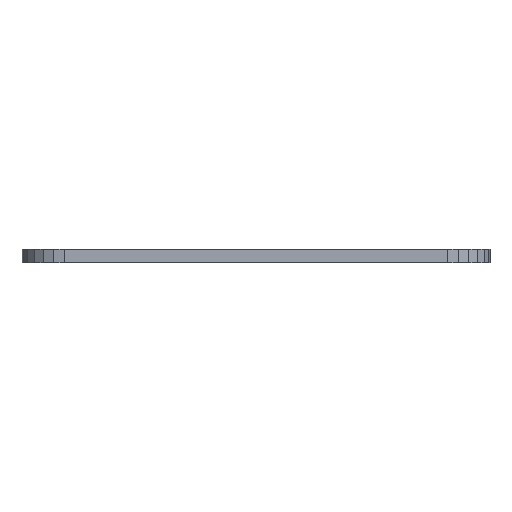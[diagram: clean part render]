
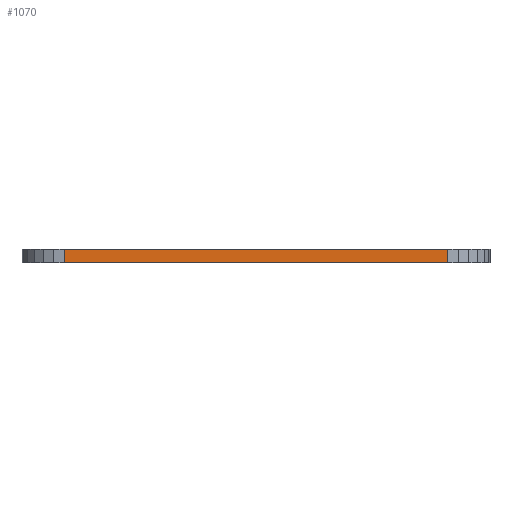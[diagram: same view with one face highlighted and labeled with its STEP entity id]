
A CAD part, front view. The second image highlights one B-rep face of the part: STEP entity #1070.
In plain terms, the highlighted planar face has unit normal (0, -1, 0).
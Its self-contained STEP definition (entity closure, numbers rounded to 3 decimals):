
#21=CARTESIAN_POINT('',(-23.0,-28.85,11.8));
#23=VERTEX_POINT('',#21);
#112=DIRECTION('',(1.0,0.0,0.0));
#161=DIRECTION('',(0.0,-1.0,0.0));
#206=CARTESIAN_POINT('',(23.0,-28.85,11.8));
#207=VERTEX_POINT('',#206);
#210=VECTOR('',#112,46.0);
#211=LINE('',#21,#210);
#212=EDGE_CURVE('',#23,#207,#211,.T.);
#296=DIRECTION('',(-1.0,0.0,0.0));
#392=CARTESIAN_POINT('',(23.0,-28.85,13.4));
#394=VERTEX_POINT('',#392);
#551=CARTESIAN_POINT('',(-23.0,-28.85,13.4));
#552=VERTEX_POINT('',#551);
#555=VECTOR('',#296,46.0);
#556=LINE('',#392,#555);
#557=EDGE_CURVE('',#394,#552,#556,.T.);
#731=DIRECTION('',(0.0,0.0,1.0));
#741=VECTOR('',#731,1.6);
#742=LINE('',#206,#741);
#743=EDGE_CURVE('',#207,#394,#742,.T.);
#1051=VECTOR('',#731,1.6);
#1052=LINE('',#21,#1051);
#1053=EDGE_CURVE('',#23,#552,#1052,.T.);
#1062=ORIENTED_EDGE('',*,*,#212,.T.);
#1063=ORIENTED_EDGE('',*,*,#743,.T.);
#1064=ORIENTED_EDGE('',*,*,#557,.T.);
#1065=ORIENTED_EDGE('',*,*,#1053,.F.);
#1066=EDGE_LOOP('',(#1062,#1063,#1064,#1065));
#1067=FACE_OUTER_BOUND('',#1066,.T.);
#1068=AXIS2_PLACEMENT_3D('',#21,#161,#731);
#1069=PLANE('',#1068);
#1070=ADVANCED_FACE('',(#1067),#1069,.T.);
